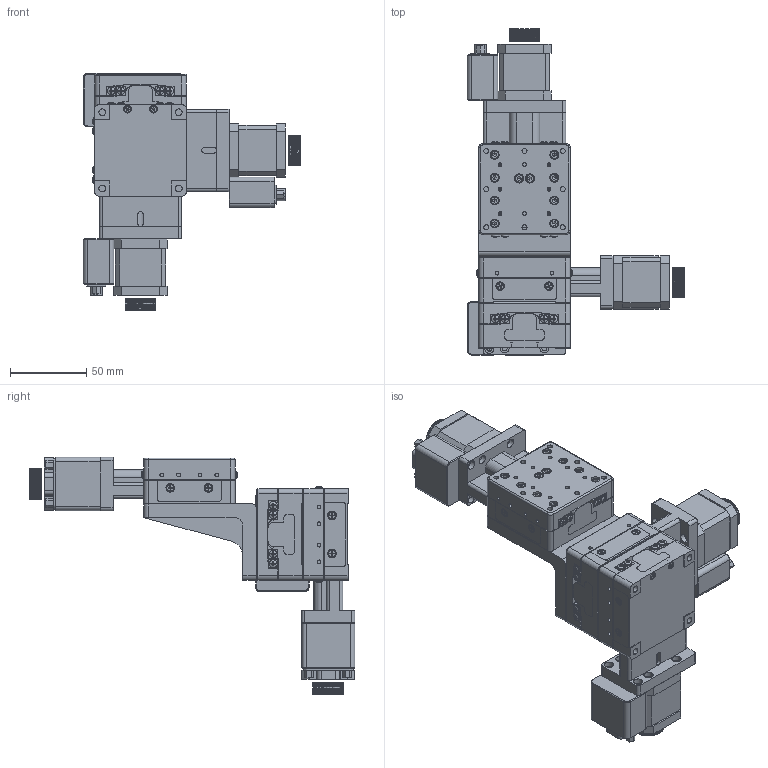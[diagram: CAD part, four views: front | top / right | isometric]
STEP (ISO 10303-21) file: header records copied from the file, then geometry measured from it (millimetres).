
FILE_DESCRIPTION (( 'STEP AP203' ), '1' );
FILE_NAME ('×°ÅäÌå1.STEP', '2020-05-06T07:59:14', ( 'SALES' ), ( 'Microsoft' ), 'SwSTEP 2.0', 'SolidWorks 2016', '' );
FILE_SCHEMA (( 'CONFIG_CONTROL_DESIGN' ));
Products named in the file (1): 蚾饜极1
Bounding box: 142.5 x 213.5 x 155.5 mm (x, y, z)
Surface area: 145624.1 mm2 (no closed solid volume)
Topology: 0 solids, 114 shells, 2109 faces, 7674 edges, 5521 vertices
Faces by surface type: cylinder 1112, plane 825, cone 82, sphere 48, torus 42
Entity records: 88398 total; most frequent: CARTESIAN_POINT 23156, DIRECTION 13779, ORIENTED_EDGE 12331, EDGE_CURVE 7648, VERTEX_POINT 5521, AXIS2_PLACEMENT_3D 4930, LINE 3919, VECTOR 3919
